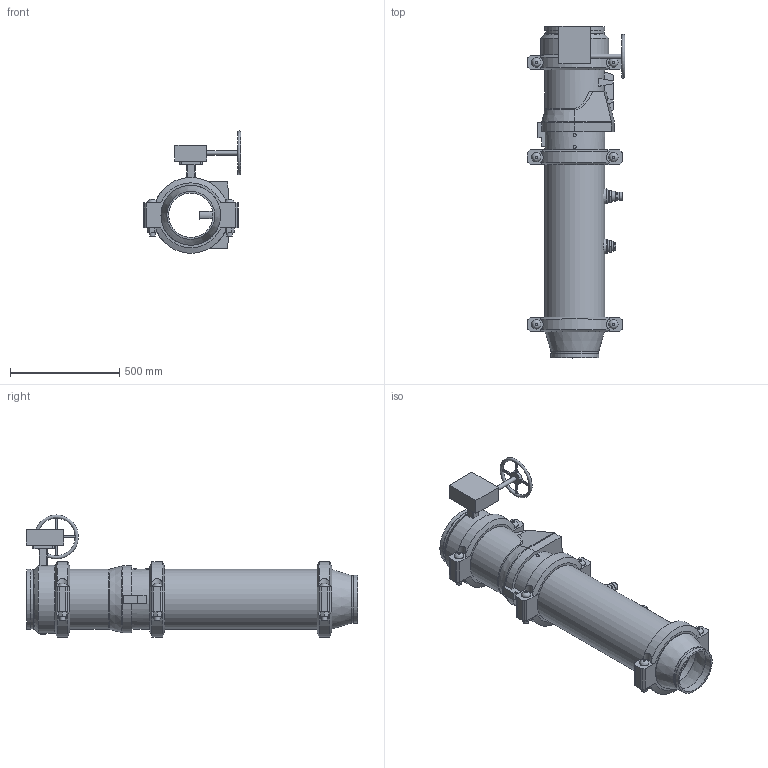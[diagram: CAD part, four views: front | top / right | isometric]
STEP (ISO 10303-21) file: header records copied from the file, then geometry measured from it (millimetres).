
FILE_DESCRIPTION(/* description */ ('VIC DVI PUMP DROP VERT S/380G (OGS)','CAx-IF Rec.Pracs.---Representation and Presentation of Product Manufacturing Information (PMI)---4.0---2014-10-13'),/* implementation_level */ '2;1');
FILE_NAME(/* name */ 'C:\Users\Public\Documents\Victaulic.Temp\A958\Victaulic_IPS_Vertical DVI_Series 380G (OGSxOGS)_10.0x08.0 (250x200).stp',/* time_stamp */ '2022-07-25T12:44:31+02:00',/* author */ ('Vjadhav'),/* organization */ ('Victaulic'),/* preprocessor_version */ 'ST-DEVELOPER v18',/* originating_system */ 'Autodesk Inventor 2020',/* authorisation */ '');
FILE_SCHEMA (('AP242_MANAGED_MODEL_BASED_3D_ENGINEERING_MIM_LF { 1 0 10303 442 1 1 4 }'));
Length unit declared in the file: inch
Products named in the file (8): 380G-10.0x08.0; 050-10.0x08.0; Pipe-10.0; 779-10.0; 923-10.0x0.75; 924-10.0x0.75; 761-10.0; 077-10.0
Assembly tree (9 placements, depth 2):
  380G-10.0x08.0
    050-10.0x08.0
    Pipe-10.0
    779-10.0
    923-10.0x0.75
    924-10.0x0.75
    761-10.0
    077-10.0  x3
Bounding box: 445.64 x 1517.4 x 558.01 mm (x, y, z)
Volume: 27960506.2 mm3; surface area: 3795006.3 mm2
Topology: 9 solids, 16 shells, 473 faces, 1183 edges, 806 vertices
Faces by surface type: plane 289, cylinder 149, cone 20, bspline 8, torus 7
Full cylindrical faces by diameter (mm): 10.922 x4, 12.7 x1, 13.716 x4, 20.066 x1, 21.336 x1, 22.86 x1, 25.4 x12, 26.67 x2, 27.432 x6, 38.608 x1, 45.974 x4, 55.626 x2, 63.079 x1, 70.104 x1, 76.2 x1, 202.717 x1, 214.401 x1, 219.075 x2, 254.508 x4, 264.16 x3, 268.275 x7, 273.05 x19, 311.15 x1
Entity records: 12025 total; most frequent: CARTESIAN_POINT 2464, DIRECTION 1947, ORIENTED_EDGE 1786, EDGE_CURVE 893, AXIS2_PLACEMENT_3D 743, VERTEX_POINT 610, LINE 461, VECTOR 461
